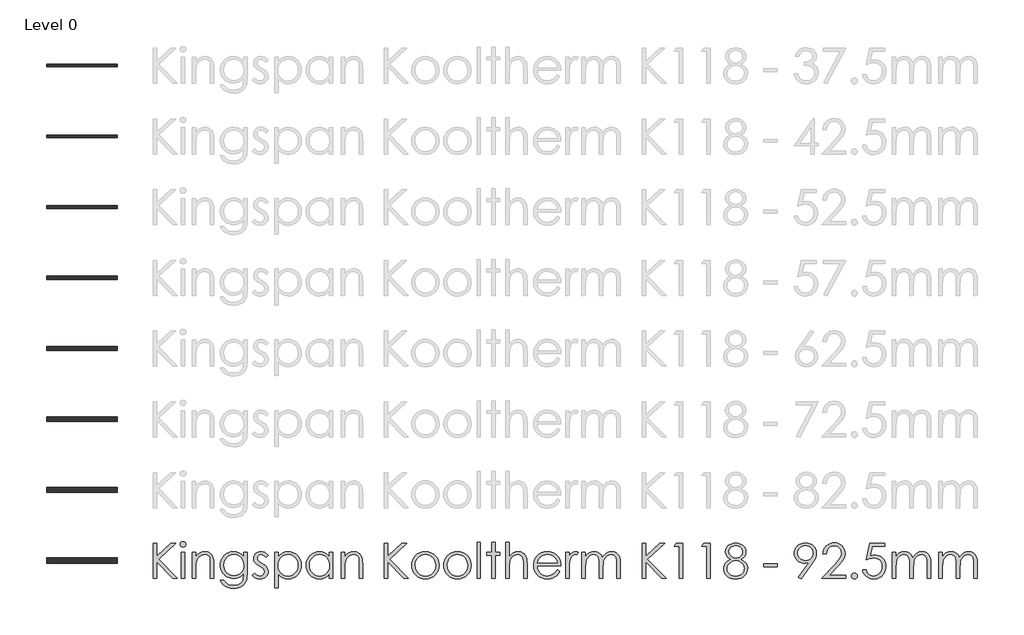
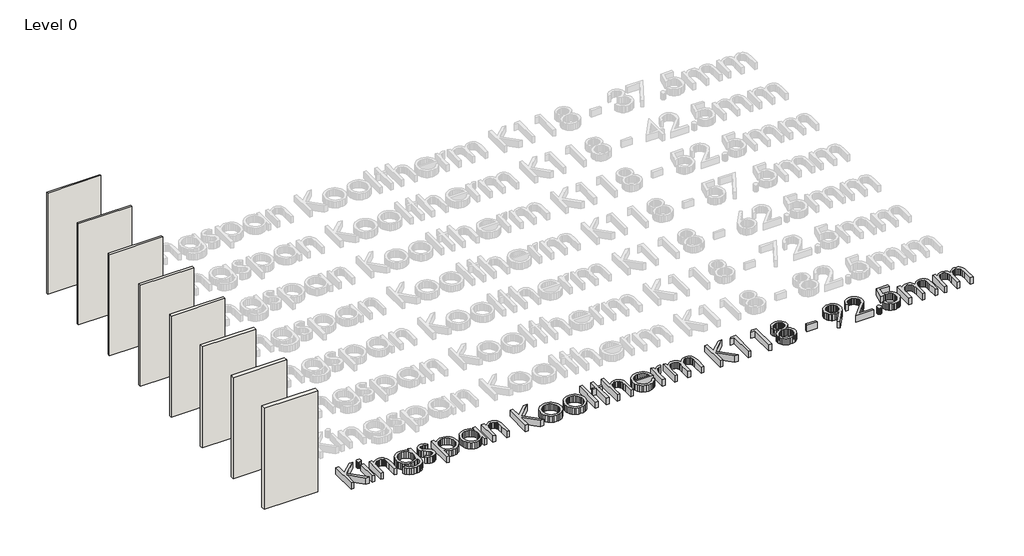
# One storey, part 1 of 8: 8 walls, 1 proxy.
"""IFC4 building model written with IfcOpenShell, lengths in millimetres."""

from ifc_helpers import new_model, si_unit, origin, origin_with_axes, place, context, project, spatial, polyline, outline, extrude, element, save

model = new_model("IFC4")

# Units and contexts
model_context = context("Model", 3, world=origin())
ifc_project = project(units=[si_unit("LENGTHUNIT", "METRE", prefix="MILLI")], contexts=[model_context])

# Site, building, storey
site = spatial("IfcSite", under=ifc_project)
building = spatial("IfcBuilding", under=site)
storey = spatial("IfcBuildingStorey", under=building, Name="Level 0", Elevation=0.0)

# Proxy
placement = place(None, origin())
element("IfcBuildingElementProxy", 1, Name="600mm KI_CenturyGothic", ObjectType="600mm KI_CenturyGothic", at=placement, inside=storey, context=model_context, shape_type="SweptSolid", body=[
    extrude(outline(polyline([(-3852.2663848, -2499.1034017), (-3792.944575, -2499.1034017), (-3792.944575, -2718.316027), (-3555.1938841, -2499.1034017), (-3471.6181051, -2499.1034017), (-3760.9664119, -2766.0515459), (-3441.9572002, -3092.3214999), (-3520.8984627, -3092.3214999), (-3792.944575, -2814.0960325), (-3792.944575, -3092.3214999), (-3852.2663848, -3092.3214999), (-3852.2663848, -2499.1034017)])), origin_with_axes(), (0.0, 0.0, 1.0), 150.0),
    extrude(outline(polyline([(-3348.1854852, -2469.4424967), (-3329.145347, -2472.7252792), (-3313.1176445, -2482.5736265), (-3302.226531, -2497.0178693), (-3298.5961598, -2514.088338), (-3302.226531, -2530.9270809), (-3313.1176445, -2545.2940817), (-3329.145347, -2555.142429), (-3348.1854852, -2558.4252115), (-3366.9938975, -2555.142429), (-3382.9443581, -2545.2940817), (-3393.8354717, -2530.9270809), (-3397.4658428, -2514.088338), (-3393.8354717, -2497.0178693), (-3382.9443581, -2482.5736265), (-3366.9938975, -2472.7252792), (-3348.1854852, -2469.4424967)])), origin_with_axes(), (0.0, 0.0, 1.0), 150.0),
    extrude(outline(polyline([(-3377.6919062, -2647.4079262), (-3318.3700964, -2647.4079262), (-3318.3700964, -3092.3214999), (-3377.6919062, -3092.3214999), (-3377.6919062, -2647.4079262)])), origin_with_axes(), (0.0, 0.0, 1.0), 150.0),
    extrude(outline(polyline([(-3189.8395084, -2647.4079262), (-3130.5176986, -2647.4079262), (-3130.5176986, -2726.5036726), (-3096.9946967, -2686.9944204), (-3060.0730495, -2659.303185), (-3019.7141359, -2642.9665147), (-2975.879335, -2637.5209579), (-2953.4357238, -2639.0995901), (-2932.2955704, -2643.8354865), (-2912.4588747, -2651.7286472), (-2893.9256368, -2662.7790723), (-2877.212412, -2676.5039994), (-2862.835756, -2692.4206667), (-2841.0921499, -2730.8292213), (-2833.6238199, -2755.2087086), (-2828.2892984, -2785.5551357), (-2824.0216812, -2864.1488095), (-2824.0216812, -3092.3214999), (-2883.343491, -3092.3214999), (-2883.343491, -2879.1337458), (-2883.343491, -2776.092998), (-2884.7290183, -2755.2956057), (-2889.8125035, -2737.2403023), (-2898.2849788, -2721.9270877), (-2910.1464442, -2709.355962), (-2924.7403432, -2699.5558909), (-2941.4101193, -2692.5558401), (-2980.977303, -2686.9557994), (-3005.3471351, -2689.1137461), (-3028.4038541, -2695.5875862), (-3050.1474602, -2706.3773197), (-3070.5779533, -2721.4829466), (-3088.6622225, -2739.7651482), (-3103.3671568, -2760.084606), (-3114.6927562, -2782.44132), (-3122.6390208, -2806.8352901), (-3128.5480292, -2853.9142525), (-3130.5176986, -2928.4141035), (-3130.5176986, -3092.3214999), (-3189.8395084, -3092.3214999), (-3189.8395084, -2647.4079262)])), origin_with_axes(), (0.0, 0.0, 1.0), 150.0),
    extrude(outline(polyline([(-2319.7862977, -2647.4079262), (-2260.4644879, -2647.4079262), (-2260.4644879, -2998.395301), (-2264.5196897, -3078.6496765), (-2269.588692, -3109.4499001), (-2276.6852953, -3134.0321474), (-2289.9371156, -3162.6454585), (-2307.2924139, -3187.7732271), (-2328.7511904, -3209.4154531), (-2354.3134448, -3227.5721366), (-2383.3226209, -3241.9343098), (-2415.122162, -3252.1930049), (-2449.7120682, -3258.348222), (-2487.0923395, -3260.3999611), (-2541.0458345, -3256.3833802), (-2589.206184, -3244.3336376), (-2630.260275, -3225.5059147), (-2662.8949946, -3201.1553932), (-2690.2000204, -3167.8061856), (-2715.2650299, -3121.9824048), (-2655.94322, -3121.9824048), (-2642.4355358, -3143.151524), (-2627.0933555, -3161.3951046), (-2609.9166791, -3176.7131468), (-2590.9055067, -3189.1056506), (-2569.7894914, -3198.6691682), (-2546.2982864, -3205.5002523), (-2492.1903075, -3210.9651195), (-2438.5071593, -3205.6354257), (-2415.083541, -3198.9733084), (-2393.93856, -3189.6463441), (-2359.6624492, -3165.6047903), (-2336.8567664, -3136.1176798), (-2329.3884364, -3117.4782342), (-2324.0539149, -3093.7697863), (-2319.7862977, -3031.1458835), (-2319.7862977, -3008.4367532), (-2354.757586, -3044.2190818), (-2396.6420279, -3070.6165148), (-2443.392712, -3086.8952536), (-2492.9627269, -3092.3214999), (-2522.4063889, -3090.4242447), (-2550.9521133, -3084.7324793), (-2578.5999001, -3075.2462036), (-2605.3497494, -3061.9654175), (-2630.1540674, -3045.4742634), (-2651.9652601, -3026.3568832), (-2670.7833277, -3004.6132772), (-2686.6082702, -2980.2434451), (-2699.1456025, -2953.9280817), (-2708.1008399, -2926.3478816), (-2713.4739824, -2897.5028447), (-2715.2650299, -2867.392971), (-2713.3967404, -2837.1044753), (-2707.7918722, -2807.8780563), (-2698.4504251, -2779.713714), (-2685.3723991, -2752.6114483), (-2668.9971079, -2727.4257483), (-2649.7638648, -2705.0111029), (-2627.67267, -2685.367512), (-2602.7235235, -2668.4949758), (-2575.9833294, -2654.943843), (-2548.5189922, -2645.2644624), (-2520.3305117, -2639.456834), (-2491.4178881, -2637.5209579), (-2444.5320306, -2642.4644421), (-2400.8903346, -2657.2948945), (-2359.6045177, -2683.8661218), (-2319.7862977, -2724.0319306), (-2319.7862977, -2647.4079262)]), holes=[polyline([(-2484.1571458, -2686.9557994), (-2529.0154023, -2692.9806707), (-2570.5908765, -2711.0552847), (-2606.2187212, -2739.7699758), (-2633.2340897, -2777.7150788), (-2650.2659375, -2821.9940208), (-2655.94322, -2869.7102292), (-2653.0080263, -2905.6229036), (-2644.2024452, -2938.2817613), (-2629.5264766, -2967.6868023), (-2608.9801206, -2993.8380266), (-2583.7606272, -3015.296803), (-2555.0652466, -3030.6245004), (-2522.8939786, -3039.8211189), (-2487.2468234, -3042.8866584), (-2451.3244937, -3039.845257), (-2419.1001219, -3030.7210528), (-2390.573708, -3015.5140459), (-2365.7452519, -2994.2242363), (-2345.6382095, -2967.9812872), (-2331.2760363, -2937.9148621), (-2322.6587323, -2904.024961), (-2319.7862977, -2866.3115838), (-2325.0773706, -2817.6105407), (-2340.9505892, -2774.3936754), (-2366.4983608, -2738.1672056), (-2400.8130926, -2710.4373492), (-2440.9982119, -2692.8261869), (-2484.1571458, -2686.9557994)])]), origin_with_axes(), (0.0, 0.0, 1.0), 150.0),
    extrude(outline(polyline([(-1904.5336289, -2698.6965743), (-1940.9918246, -2736.390641), (-1962.9575012, -2714.7628978), (-1984.6721416, -2699.3145098), (-2006.1357456, -2690.045477), (-2027.3483133, -2686.9557994), (-2052.181597, -2691.6289368), (-2073.2300256, -2705.6483489), (-2087.5970264, -2725.8857371), (-2092.3860267, -2749.212803), (-2088.4466878, -2770.7633042), (-2076.628671, -2791.2324183), (-2052.0657341, -2813.400855), (-2010.2006027, -2839.122421), (-1958.3326401, -2871.9888664), (-1939.8428507, -2887.8138088), (-1926.315856, -2903.2332311), (-1909.9791857, -2935.9065716), (-1904.5336289, -2972.4420092), (-1906.9474396, -2998.5884059), (-1914.1888714, -3022.6492701), (-1926.2579245, -3044.624602), (-1943.1545989, -3064.5144015), (-1963.6719892, -3081.0055557), (-1986.6031901, -3092.7849515), (-2011.9482016, -3099.852589), (-2039.7070237, -3102.2084682), (-2077.4397114, -3098.3270607), (-2113.3958344, -3086.6828383), (-2145.4512394, -3068.2027042), (-2171.4817731, -3043.8135617), (-2135.7959969, -3003.3387852), (-2114.0041146, -3024.9665283), (-2091.5749863, -3040.4149163), (-2068.5086121, -3049.6839491), (-2044.8049918, -3052.7736267), (-2013.637869, -3047.1349651), (-1987.4914724, -3030.2189802), (-1969.7644472, -3005.6560434), (-1963.8554388, -2977.0765256), (-1967.7561567, -2953.2860081), (-1979.4583106, -2932.2762005), (-2005.0253927, -2910.5712154), (-2050.2119275, -2883.7682622), (-2099.762632, -2853.1032121), (-2117.441381, -2837.9444814), (-2130.3890611, -2822.9016136), (-2146.3781427, -2790.7689666), (-2151.7078365, -2754.310771), (-2149.5305794, -2730.2643896), (-2142.9988078, -2708.3325063), (-2132.1125219, -2688.5151211), (-2116.8717217, -2670.812234), (-2098.309518, -2656.2473007), (-2077.4590218, -2645.8437769), (-2054.3202332, -2639.6016627), (-2028.8931521, -2637.5209579), (-1997.9481, -2641.3444339), (-1966.9064954, -2652.814862), (-1935.7683384, -2671.9322421), (-1904.5336289, -2698.6965743)])), origin_with_axes(), (0.0, 0.0, 1.0), 150.0),
    extrude(outline(polyline([(-1795.7769776, -2647.4079262), (-1736.4551678, -2647.4079262), (-1736.4551678, -2728.5119631), (-1700.9238754, -2688.2689124), (-1660.4490989, -2659.9211205), (-1614.9922173, -2643.1209986), (-1564.5146096, -2637.5209579), (-1520.0618732, -2641.7596094), (-1478.9305402, -2654.4755637), (-1441.1206107, -2675.668821), (-1406.6320845, -2705.3393811), (-1377.9077381, -2740.9768811), (-1357.3903478, -2780.070958), (-1345.0799137, -2822.6216116), (-1340.9764356, -2868.628842), (-1345.0412927, -2915.5291824), (-1357.235864, -2958.7508754), (-1377.5601494, -2998.293921), (-1406.014149, -3034.1583192), (-1440.2130179, -3063.9302594), (-1477.7719111, -3085.1959309), (-1518.6908288, -3097.9553339), (-1562.9697708, -3102.2084682), (-1612.6170277, -3096.743601), (-1658.0545988, -3080.3489992), (-1699.3211052, -3053.1019049), (-1736.4551678, -3015.07956), (-1736.4551678, -3250.5129928), (-1795.7769776, -3250.5129928), (-1795.7769776, -2647.4079262)]), holes=[polyline([(-1568.5311905, -2686.9557994), (-1602.5852307, -2690.2530647), (-1633.8392507, -2700.1448607), (-1662.2932503, -2716.6311872), (-1687.9472295, -2739.7120444), (-1709.1694525, -2767.6977647), (-1724.3281832, -2798.8986808), (-1733.4234216, -2833.3147926), (-1736.4551678, -2870.9461002), (-1731.048232, -2919.8016272), (-1714.8274246, -2963.4819442), (-1688.5265441, -3000.3263495), (-1652.8793888, -3028.6741414), (-1611.4390881, -3046.7487554), (-1567.7587711, -3052.7736267), (-1525.0632888, -3046.7101344), (-1485.0326535, -3028.5196576), (-1450.2544701, -2999.4187567), (-1423.3163435, -2960.6239924), (-1406.05277, -2915.9588407), (-1400.2982454, -2869.2467775), (-1405.9948385, -2822.3029886), (-1423.0846177, -2777.8695627), (-1449.8103289, -2739.5189395), (-1484.414718, -2710.8235589), (-1524.7157001, -2692.9227393), (-1568.5311905, -2686.9557994)])]), origin_with_axes(), (0.0, 0.0, 1.0), 150.0),
    extrude(outline(polyline([(-807.0801472, -2647.4079262), (-807.0801472, -3092.3214999), (-866.401957, -3092.3214999), (-866.401957, -3016.4699149), (-903.4780882, -3054.3184655), (-944.8797679, -3081.0441767), (-990.4525125, -3096.9173953), (-1040.0418379, -3102.2084682), (-1084.3159523, -3097.9553339), (-1125.2203871, -3085.1959309), (-1162.7551422, -3063.9302594), (-1196.9202178, -3034.1583192), (-1225.340424, -2998.293921), (-1245.6405713, -2958.7508754), (-1257.8206597, -2915.5291824), (-1261.8806892, -2868.628842), (-1257.7820388, -2822.6216116), (-1245.4860875, -2780.070958), (-1224.9928353, -2740.9768811), (-1196.3022822, -2705.3393811), (-1161.8475494, -2675.668821), (-1124.061758, -2654.4755637), (-1082.9449079, -2641.7596094), (-1038.4969991, -2637.5209579), (-987.7490446, -2643.1209986), (-942.0990581, -2659.9211205), (-921.2051134, -2672.6081091), (-901.6242816, -2688.2689124), (-866.401957, -2728.5119631), (-866.401957, -2647.4079262), (-807.0801472, -2647.4079262)]), holes=[polyline([(-1034.3259343, -2686.9557994), (-1078.1414247, -2692.9227393), (-1118.4424068, -2710.8235589), (-1153.0467959, -2739.5189395), (-1179.7725071, -2777.8695627), (-1196.8622863, -2822.3029886), (-1202.5588794, -2869.2467775), (-1196.8043548, -2915.9588407), (-1179.5407813, -2960.6239924), (-1152.6026548, -2999.4187567), (-1117.8244713, -3028.5196576), (-1077.6779731, -3046.7101344), (-1034.6349021, -3052.7736267), (-991.0125165, -3046.7487554), (-949.7460102, -3028.6741414), (-914.2726493, -3000.3263495), (-888.0297002, -2963.4819442), (-871.8088928, -2919.8016272), (-866.401957, -2870.9461002), (-869.4337032, -2833.3147926), (-878.5289416, -2798.8986808), (-893.6876723, -2767.6977647), (-914.9098953, -2739.7120444), (-940.5638746, -2716.6311872), (-969.0178742, -2700.1448607), (-1000.2718941, -2690.2530647), (-1034.3259343, -2686.9557994)])]), origin_with_axes(), (0.0, 0.0, 1.0), 150.0),
    extrude(outline(polyline([(-668.662591, -2647.4079262), (-609.3407811, -2647.4079262), (-609.3407811, -2726.5036726), (-575.8177792, -2686.9944204), (-538.896132, -2659.303185), (-498.5372184, -2642.9665147), (-454.7024175, -2637.5209579), (-432.2588064, -2639.0995901), (-411.1186529, -2643.8354865), (-391.2819572, -2651.7286472), (-372.7487193, -2662.7790723), (-356.0354946, -2676.5039994), (-341.6588385, -2692.4206667), (-319.9152324, -2730.8292213), (-312.4469024, -2755.2087086), (-307.1123809, -2785.5551357), (-302.8447637, -2864.1488095), (-302.8447637, -3092.3214999), (-362.1665735, -3092.3214999), (-362.1665735, -2879.1337458), (-362.1665735, -2776.092998), (-363.5521008, -2755.2956057), (-368.635586, -2737.2403023), (-377.1080613, -2721.9270877), (-388.9695267, -2709.355962), (-403.5634257, -2699.5558909), (-420.2332018, -2692.5558401), (-459.8003855, -2686.9557994), (-484.1702176, -2689.1137461), (-507.2269366, -2695.5875862), (-528.9705427, -2706.3773197), (-549.4010358, -2721.4829466), (-567.485305, -2739.7651482), (-582.1902393, -2760.084606), (-593.5158387, -2782.44132), (-601.4621033, -2806.8352901), (-607.3711117, -2853.9142525), (-609.3407811, -2928.4141035), (-609.3407811, -3092.3214999), (-668.662591, -3092.3214999), (-668.662591, -2647.4079262)])), origin_with_axes(), (0.0, 0.0, 1.0), 150.0),
    extrude(outline(polyline([(62.9730635, -2499.1034017), (122.2948734, -2499.1034017), (122.2948734, -2718.316027), (360.0455643, -2499.1034017), (443.6213432, -2499.1034017), (154.2730365, -2766.0515459), (473.2822481, -3092.3214999), (394.3409856, -3092.3214999), (122.2948734, -2814.0960325), (122.2948734, -3092.3214999), (62.9730635, -3092.3214999), (62.9730635, -2499.1034017)])), origin_with_axes(), (0.0, 0.0, 1.0), 150.0),
    extrude(outline(polyline([(760.1588128, -2637.5209579), (809.4681362, -2642.1458191), (854.3553585, -2656.0204025), (894.8204798, -2679.1447083), (930.8635, -2711.5187363), (957.7630055, -2746.7507161), (976.9769381, -2785.091684), (988.5052976, -2826.54164), (992.3480841, -2871.1005841), (988.283227, -2915.9153921), (976.0886558, -2957.8239721), (955.7643703, -2996.8263241), (927.3103707, -3032.9224481), (892.4742558, -3063.2350819), (853.0036246, -3084.8869632), (808.8984769, -3097.8780919), (760.1588128, -3102.2084682), (711.2839754, -3097.8780919), (667.0822753, -3084.8869632), (627.5537126, -3063.2350819), (592.6982872, -3032.9224481), (564.2442876, -2996.8263241), (543.9200022, -2957.8239721), (531.7254309, -2915.9153921), (527.6605738, -2871.1005841), (531.5033603, -2826.7347449), (543.0317198, -2785.4006518), (562.2456524, -2747.0983049), (589.145158, -2711.8277041), (625.2074886, -2679.3185026), (665.7305413, -2656.0976445), (710.7143161, -2642.1651295), (760.1588128, -2637.5209579)]), holes=[polyline([(760.004329, -2686.9557994), (725.7282181, -2690.3303067), (693.9624704, -2700.4538284), (664.7070856, -2717.3263647), (637.962064, -2740.9479154), (615.6584538, -2769.3584664), (599.7273037, -2800.5980035), (590.1686137, -2834.6665266), (586.9823836, -2871.5640357), (592.7948396, -2919.2995546), (610.2322075, -2963.6364281), (637.5758543, -3001.4270471), (673.1071466, -3029.5238028), (714.6439998, -3046.9611707), (760.004329, -3052.7736267), (805.3646581, -3046.9611707), (846.9015113, -3029.5238028), (882.4328037, -3001.4270471), (909.7764504, -2963.6364281), (927.2138183, -2919.2995546), (933.0262743, -2871.5640357), (929.8255614, -2834.6665266), (920.2234227, -2800.5980035), (904.2198583, -2769.3584664), (881.8148681, -2740.9479154), (854.9974321, -2717.3263647), (825.7565303, -2700.4538284), (794.0921625, -2690.3303067), (760.004329, -2686.9557994)])]), origin_with_axes(), (0.0, 0.0, 1.0), 150.0),
    extrude(outline(polyline([(1303.9420695, -2637.5209579), (1353.2513929, -2642.1458191), (1398.1386152, -2656.0204025), (1438.6037365, -2679.1447083), (1474.6467567, -2711.5187363), (1501.5462622, -2746.7507161), (1520.7601948, -2785.091684), (1532.2885543, -2826.54164), (1536.1313408, -2871.1005841), (1532.0664837, -2915.9153921), (1519.8719125, -2957.8239721), (1499.547627, -2996.8263241), (1471.0936274, -3032.9224481), (1436.2575126, -3063.2350819), (1396.7868813, -3084.8869632), (1352.6817336, -3097.8780919), (1303.9420695, -3102.2084682), (1255.0672321, -3097.8780919), (1210.865532, -3084.8869632), (1171.3369693, -3063.2350819), (1136.4815439, -3032.9224481), (1108.0275443, -2996.8263241), (1087.7032589, -2957.8239721), (1075.5086876, -2915.9153921), (1071.4438305, -2871.1005841), (1075.286617, -2826.7347449), (1086.8149766, -2785.4006518), (1106.0289091, -2747.0983049), (1132.9284147, -2711.8277041), (1168.9907453, -2679.3185026), (1209.5137981, -2656.0976445), (1254.4975728, -2642.1651295), (1303.9420695, -2637.5209579)]), holes=[polyline([(1303.7875857, -2686.9557994), (1269.5114748, -2690.3303067), (1237.7457271, -2700.4538284), (1208.4903423, -2717.3263647), (1181.7453207, -2740.9479154), (1159.4417105, -2769.3584664), (1143.5105604, -2800.5980035), (1133.9518704, -2834.6665266), (1130.7656404, -2871.5640357), (1136.5780963, -2919.2995546), (1154.0154643, -2963.6364281), (1181.359111, -3001.4270471), (1216.8904033, -3029.5238028), (1258.4272565, -3046.9611707), (1303.7875857, -3052.7736267), (1349.1479149, -3046.9611707), (1390.684768, -3029.5238028), (1426.2160604, -3001.4270471), (1453.5597071, -2963.6364281), (1470.997075, -2919.2995546), (1476.809531, -2871.5640357), (1473.6088181, -2834.6665266), (1464.0066795, -2800.5980035), (1448.003115, -2769.3584664), (1425.5981249, -2740.9479154), (1398.7806889, -2717.3263647), (1369.539787, -2700.4538284), (1337.8754193, -2690.3303067), (1303.7875857, -2686.9557994)])]), origin_with_axes(), (0.0, 0.0, 1.0), 150.0),
    extrude(outline(polyline([(1635.0010238, -2479.3294651), (1694.3228337, -2479.3294651), (1694.3228337, -3092.3214999), (1635.0010238, -3092.3214999), (1635.0010238, -2479.3294651)])), origin_with_axes(), (0.0, 0.0, 1.0), 150.0),
    extrude(outline(polyline([(1882.1752314, -2479.3294651), (1941.4970413, -2479.3294651), (1941.4970413, -2647.4079262), (2020.5927877, -2647.4079262), (2020.5927877, -2696.8427677), (1941.4970413, -2696.8427677), (1941.4970413, -3092.3214999), (1882.1752314, -3092.3214999), (1882.1752314, -2696.8427677), (1803.079485, -2696.8427677), (1803.079485, -2647.4079262), (1882.1752314, -2647.4079262), (1882.1752314, -2479.3294651)])), origin_with_axes(), (0.0, 0.0, 1.0), 150.0),
    extrude(outline(polyline([(2119.4624707, -2479.3294651), (2178.7842806, -2479.3294651), (2178.7842806, -2728.0485114), (2212.5583188, -2688.3461544), (2249.6151394, -2660.0756044), (2289.9161216, -2643.1596195), (2333.4226442, -2637.5209579), (2355.8662553, -2639.0995901), (2377.0064088, -2643.8354865), (2396.8431044, -2651.7286472), (2415.3763424, -2662.7790723), (2432.0895671, -2676.4895166), (2446.4662232, -2692.3627352), (2468.2098293, -2730.5974955), (2475.6781593, -2754.9045684), (2481.0126808, -2785.2654784), (2485.280298, -2864.1488095), (2485.280298, -3092.3214999), (2425.9584882, -3092.3214999), (2425.9584882, -2879.1337458), (2424.5681332, -2814.752589), (2420.3970685, -2776.092998), (2406.879729, -2737.2403023), (2397.1665551, -2721.9270877), (2385.4837117, -2709.355962), (2371.840854, -2699.5558909), (2356.2476374, -2692.5558401), (2319.2101273, -2686.9557994), (2296.3416854, -2689.1137461), (2274.6994594, -2695.5875862), (2254.2834492, -2706.3773197), (2235.0936547, -2721.4829466), (2218.1052556, -2739.7651482), (2204.2934312, -2760.084606), (2193.6581816, -2782.44132), (2186.1995068, -2806.8352901), (2180.6380871, -2853.6825267), (2178.7842806, -2928.4141035), (2178.7842806, -3092.3214999), (2119.4624707, -3092.3214999), (2119.4624707, -2479.3294651)])), origin_with_axes(), (0.0, 0.0, 1.0), 150.0),
    extrude(outline(polyline([(2991.0605203, -2944.0169753), (3038.950523, -2969.1978477), (3013.3255094, -3011.0822896), (2984.0315038, -3044.0452875), (2950.952643, -3069.1296074), (2913.9730643, -3087.3780157), (2872.4941426, -3098.5008551), (2825.9172528, -3102.2084682), (2774.4258447, -3097.7767119), (2728.8627554, -3084.481443), (2689.227985, -3062.3226615), (2655.5215335, -3031.3003674), (2628.6220279, -2994.6973431), (2609.4080954, -2955.7963712), (2597.8797358, -2914.5974515), (2594.0369493, -2871.1005841), (2597.3197318, -2830.2202874), (2607.1680791, -2791.618628), (2623.5819913, -2755.2956057), (2646.5614684, -2721.2512207), (2682.7493173, -2684.6192308), (2724.5758277, -2658.4535236), (2772.0409998, -2642.7540993), (2825.1448334, -2637.5209579), (2879.7935059, -2642.8892727), (2928.6490329, -2658.9942172), (2971.7114143, -2685.8357913), (3008.9806503, -2723.4139951), (3030.4539096, -2755.585263), (3045.9022976, -2791.541386), (3055.3258143, -2831.2823641), (3058.7244596, -2874.8081972), (2653.3587591, -2874.8081972), (2657.095338, -2912.0629503), (2666.6057518, -2945.8128504), (2681.8900007, -2976.0578975), (2702.9480845, -3002.7980916), (2728.3124066, -3024.6623882), (2756.5153699, -3040.2797429), (2787.5569744, -3049.6501557), (2821.4372203, -3052.7736267), (2854.9602222, -3049.761191), (2887.5563208, -3040.7238841), (2917.2944677, -3026.6851615), (2942.2436143, -3008.668479), (2965.725164, -2982.5027719), (2991.0605203, -2944.0169753)]), holes=[polyline([(2999.4026498, -2825.3733557), (2984.9777175, -2782.8516678), (2965.1844704, -2749.8307385), (2939.0766947, -2724.3022774), (2905.7081767, -2704.257994), (2867.7630738, -2691.2813481), (2827.9255433, -2686.9557994), (2795.503239, -2689.6689226), (2765.4368139, -2697.808292), (2737.726268, -2711.3739077), (2712.3716012, -2730.3657696), (2695.8321708, -2748.179692), (2681.4362043, -2769.9522638), (2669.1837016, -2795.683485), (2659.0746627, -2825.3733557), (2999.4026498, -2825.3733557)])]), origin_with_axes(), (0.0, 0.0, 1.0), 150.0),
    extrude(outline(polyline([(3137.820206, -2647.4079262), (3197.1420159, -2647.4079262), (3197.1420159, -2711.8277041), (3222.6897875, -2678.7874643), (3249.589293, -2655.6728138), (3277.7632906, -2642.0589219), (3307.1345382, -2637.5209579), (3330.4616041, -2641.305813), (3355.3335087, -2652.6603781), (3325.8270877, -2694.6799934), (3297.2475699, -2686.9557994), (3270.8308265, -2692.9034288), (3245.3409863, -2710.7463169), (3223.2884125, -2741.1023993), (3207.183468, -2784.5896114), (3199.6523789, -2842.7141712), (3197.1420159, -2940.1548783), (3197.1420159, -3092.3214999), (3137.820206, -3092.3214999), (3137.820206, -2647.4079262)])), origin_with_axes(), (0.0, 0.0, 1.0), 150.0),
    extrude(outline(polyline([(3414.6553185, -2647.4079262), (3473.9771284, -2647.4079262), (3473.9771284, -2723.5684789), (3503.5607913, -2687.0716623), (3533.9168737, -2661.9294109), (3577.3268439, -2643.6230712), (3622.8995884, -2637.5209579), (3653.7384329, -2640.668567), (3682.9165757, -2650.1113941), (3708.6767627, -2664.7873627), (3729.2617397, -2683.634396), (3746.0425511, -2709.0663047), (3760.3902414, -2743.4968994), (3775.16759, -2719.0981017), (3791.6925376, -2697.808292), (3809.965084, -2679.6274704), (3829.9852293, -2664.5556369), (3851.2798666, -2652.7279648), (3873.375889, -2644.2796277), (3896.2732965, -2639.2106253), (3919.9720892, -2637.5209579), (3962.3006723, -2643.3334139), (3981.4952943, -2650.5989839), (3999.3768034, -2660.7707818), (4015.4914031, -2673.53984), (4029.385297, -2688.5971907), (4050.5109676, -2725.5767694), (4057.8103309, -2748.9521114), (4063.0241619, -2777.5219739), (4067.1952266, -2850.2452603), (4067.1952266, -3092.3214999), (4007.8734168, -3092.3214999), (4007.8734168, -2846.6921311), (4005.4209852, -2785.5744462), (3998.0636904, -2747.1272706), (3984.7587663, -2722.6608861), (3964.4634466, -2703.4855746), (3938.3942919, -2691.0882432), (3907.7678627, -2686.9557994), (3888.1194443, -2688.5054659), (3869.3399976, -2693.1544651), (3834.3880198, -2711.7504621), (3805.6540182, -2740.6968791), (3785.8800816, -2777.9468046), (3779.1889985, -2802.1042213), (3774.4096535, -2833.1747916), (3770.5861775, -2916.0553931), (3770.5861775, -3092.3214999), (3711.2643677, -3092.3214999), (3711.2643677, -2861.9860352), (3708.850557, -2793.530366), (3701.6091252, -2751.2983353), (3688.3621325, -2725.0553863), (3667.9316394, -2704.5669617), (3641.6114484, -2691.35859), (3610.6953619, -2686.9557994), (3573.7544042, -2692.9999812), (3539.2465676, -2711.1325266), (3510.2808401, -2739.499629), (3489.9662099, -2776.2474819), (3477.9743988, -2828.0768236), (3473.9771284, -2901.6883923), (3473.9771284, -3092.3214999), (3414.6553185, -3092.3214999), (3414.6553185, -2647.4079262)])), origin_with_axes(), (0.0, 0.0, 1.0), 150.0),
    extrude(outline(polyline([(4433.0130538, -2499.1034017), (4492.3348637, -2499.1034017), (4492.3348637, -2718.316027), (4730.0855546, -2499.1034017), (4813.6613335, -2499.1034017), (4524.3130268, -2766.0515459), (4843.3222385, -3092.3214999), (4764.3809759, -3092.3214999), (4492.3348637, -2814.0960325), (4492.3348637, -3092.3214999), (4433.0130538, -3092.3214999), (4433.0130538, -2499.1034017)])), origin_with_axes(), (0.0, 0.0, 1.0), 150.0),
    extrude(outline(polyline([(5010.6282802, -2499.1034017), (5125.1008351, -2499.1034017), (5125.1008351, -3092.3214999), (5065.7790253, -3092.3214999), (5065.7790253, -2548.5382432), (4976.7963106, -2548.5382432), (5010.6282802, -2499.1034017)])), origin_with_axes(), (0.0, 0.0, 1.0), 150.0),
    extrude(outline(polyline([(5475.3157905, -2499.1034017), (5589.7883454, -2499.1034017), (5589.7883454, -3092.3214999), (5530.4665356, -3092.3214999), (5530.4665356, -2548.5382432), (5441.4838208, -2548.5382432), (5475.3157905, -2499.1034017)])), origin_with_axes(), (0.0, 0.0, 1.0), 150.0),
    extrude(outline(polyline([(6107.7727942, -2768.2143202), (6159.8724826, -2799.6131687), (6179.6946955, -2816.8477766), (6195.365154, -2835.1058401), (6207.2604128, -2854.5225327), (6215.7570261, -2875.2330279), (6220.8549942, -2897.2373255), (6222.5543169, -2920.5354256), (6219.734986, -2953.2184214), (6211.2769936, -2983.9124373), (6197.1803396, -3012.6174732), (6177.445024, -3039.3335291), (6146.7510081, -3066.841315), (6110.1286734, -3086.4897334), (6067.5780197, -3098.2787845), (6019.0990472, -3102.2084682), (5972.4352603, -3098.756719), (5931.7770342, -3088.4014714), (5897.1243689, -3071.1427255), (5868.4772645, -3046.9804812), (5846.0384809, -3018.6664826), (5830.0107784, -2988.9524739), (5820.3941569, -2957.838455), (5817.1886164, -2925.3244259), (5818.9024219, -2901.5966675), (5824.0438386, -2879.0758144), (5832.6128663, -2857.7618666), (5844.609505, -2837.6548241), (5860.5068618, -2818.6871003), (5880.7780434, -2800.7911083), (5905.4230498, -2783.9668483), (5934.4418811, -2768.2143202), (5896.0719475, -2743.2651736), (5868.7089903, -2712.9090912), (5852.3143886, -2678.6522909), (5846.8495213, -2642.0009904), (5852.6426668, -2604.2876133), (5870.0221033, -2567.4625184), (5897.6360968, -2534.9436618), (5934.1329134, -2510.1489991), (5976.7318432, -2494.4495748), (6022.6521765, -2489.2164334), (6067.3945701, -2494.4881958), (6108.6224555, -2510.3034829), (6143.8254696, -2535.1753876), (6170.4932494, -2567.6170023), (6187.2933713, -2604.7510649), (6192.8934119, -2643.7003131), (6187.5830286, -2681.2398959), (6171.6518785, -2714.45393), (6145.0613407, -2743.4196575), (6107.7727942, -2768.2143202)]), holes=[polyline([(6022.9611442, -2795.7124508), (5993.0926516, -2798.2228138), (5965.7441773, -2805.753903), (5940.9157212, -2818.3057182), (5918.6072834, -2835.8782595), (5900.1899084, -2856.7818595), (5887.0346405, -2879.3268507), (5879.1414798, -2903.5132331), (5876.5104262, -2929.3410068), (5881.0097692, -2961.4543433), (5894.5077982, -2991.6752522), (5916.0776099, -3017.6092335), (5944.7923011, -3036.8617871), (5979.6670369, -3048.7956668), (6019.7169827, -3052.7736267), (6050.9372093, -3050.3549884), (6078.7877563, -3043.0990737), (6103.2686236, -3031.0058825), (6124.3798113, -3014.0754148), (6141.3778657, -2993.9104409), (6153.5193331, -2972.113731), (6160.8042135, -2948.6852851), (6163.232507, -2923.6251032), (6160.6642125, -2899.2938921), (6152.959329, -2876.353036), (6140.1178565, -2854.8025348), (6122.139795, -2834.6423885), (6100.5313623, -2817.6105407), (6076.7987763, -2805.4449352), (6050.9420369, -2798.1455719), (6022.9611442, -2795.7124508)]), polyline([(6019.7169827, -2538.6512749), (5996.2112949, -2540.5099091), (5974.8201052, -2546.0858116), (5955.5434136, -2555.3789825), (5938.3812201, -2568.3894217), (5924.2893937, -2583.9778107), (5914.2238034, -2601.0048308), (5908.1844492, -2619.4704821), (5906.1713311, -2639.3747645), (5908.3389331, -2659.2838745), (5914.8417389, -2678.2274602), (5925.6797486, -2696.2055217), (5940.8529621, -2713.218059), (5958.9130932, -2727.6816122), (5978.4118554, -2738.0127217), (5999.3492487, -2744.2113874), (6021.7252732, -2746.2776093), (6050.4399643, -2742.5313752), (6077.5711957, -2731.2926729), (6101.0334349, -2713.5463372), (6118.7411497, -2690.2772028), (6129.863989, -2664.2273586), (6133.5716021, -2638.1388934), (6131.7467613, -2619.9677271), (6126.2722388, -2602.5303592), (6117.1480347, -2585.8267897), (6104.3741488, -2569.8570186), (6088.134031, -2556.2045057), (6068.6111307, -2546.4527108), (6045.8054479, -2540.6016339), (6019.7169827, -2538.6512749)])]), origin_with_axes(), (0.0, 0.0, 1.0), 150.0),
    extrude(outline(polyline([(6499.3894294, -2845.1472923), (6726.7897004, -2845.1472923), (6726.7897004, -2894.5821338), (6499.3894294, -2894.5821338), (6499.3894294, -2845.1472923)])), origin_with_axes(), (0.0, 0.0, 1.0), 150.0),
    extrude(outline(polyline([(7132.1554008, -3102.2084682), (7081.1757205, -3074.5558537), (7254.5066336, -2829.3899366), (7192.24963, -2835.260324), (7156.3514385, -2832.1899569), (7123.2725777, -2822.9788556), (7093.0130478, -2807.62702), (7065.5728486, -2786.1344502), (7042.7961316, -2760.1521927), (7026.527048, -2731.3312939), (7016.7655979, -2699.6717538), (7013.5117812, -2665.1735724), (7015.0421371, -2641.1368462), (7019.6332049, -2618.3070254), (7027.2849846, -2596.6841098), (7037.9974761, -2576.2680996), (7051.5196432, -2557.450032), (7067.6004496, -2540.6209443), (7107.4379801, -2512.9297089), (7154.0148698, -2495.1447522), (7203.835921, -2489.2164334), (7252.5562746, -2495.0481998), (7297.3759102, -2512.5434992), (7317.6615747, -2525.3753165), (7335.6492914, -2540.5437024), (7351.3390604, -2558.048657), (7364.7308818, -2577.8901803), (7383.095153, -2621.2615296), (7389.2165767, -2667.3363467), (7385.3931007, -2704.180752), (7373.9226726, -2742.72448), (7352.6038972, -2786.1344502), (7319.2353792, -2837.5775822), (7132.1554008, -3102.2084682)]), holes=[polyline([(7204.7628243, -2785.8254825), (7231.0154286, -2783.5613281), (7254.7769804, -2776.768865), (7276.0474796, -2765.4480932), (7294.8269262, -2749.5990127), (7310.1691065, -2730.5540469), (7321.1278067, -2709.6456193), (7327.7030268, -2686.8737299), (7329.8947669, -2662.2383787), (7327.5437153, -2637.6030275), (7320.4905607, -2614.8311381), (7308.735303, -2593.9227105), (7292.2779422, -2574.8777447), (7272.4798675, -2559.0286641), (7250.702468, -2547.7078923), (7226.9457439, -2540.9154292), (7201.2096951, -2538.6512749), (7175.6088196, -2540.9154292), (7151.9486479, -2547.7078923), (7130.2291799, -2559.0286641), (7110.4504157, -2574.8777447), (7093.9930549, -2593.9227105), (7082.2377972, -2614.8311381), (7075.1846425, -2637.6030275), (7072.833591, -2662.2383787), (7075.2474016, -2686.8737299), (7082.4888335, -2709.6456193), (7094.5578866, -2730.5540469), (7111.4545609, -2749.5990127), (7131.7691911, -2765.4480932), (7154.0921117, -2776.768865), (7178.4233228, -2783.5613281), (7204.7628243, -2785.8254825)])]), origin_with_axes(), (0.0, 0.0, 1.0), 150.0),
    extrude(outline(polyline([(7557.2950379, -2677.0688311), (7497.9732281, -2677.0688311), (7502.4580882, -2637.8106152), (7513.5954104, -2602.2213914), (7531.3851947, -2570.3011597), (7555.827441, -2542.0499202), (7585.2228268, -2518.9352697), (7617.8720292, -2502.4248051), (7653.7750484, -2492.5185263), (7692.9318843, -2489.2164334), (7731.403198, -2492.5136987), (7766.0220699, -2502.4054946), (7796.7885001, -2518.8918211), (7823.7024885, -2541.9726783), (7845.5667851, -2569.533568), (7861.1841398, -2599.459992), (7870.5545527, -2631.7519505), (7873.6780236, -2666.4094434), (7867.5952208, -2715.2070389), (7849.3468125, -2760.8763359), (7813.5644839, -2812.763609), (7754.8799201, -2880.215133), (7602.095363, -3042.8866584), (7883.5649919, -3042.8866584), (7883.5649919, -3092.3214999), (7478.1992914, -3092.3214999), (7704.2092075, -2851.6356152), (7760.9434124, -2786.1151397), (7793.6553739, -2740.0210121), (7809.1810038, -2702.6552237), (7814.3562138, -2663.3197658), (7812.1065423, -2638.7133804), (7805.3575278, -2615.8739043), (7794.1091703, -2594.8013375), (7778.3614698, -2575.4956802), (7759.3502973, -2559.3762529), (7738.311524, -2547.8623762), (7715.2451497, -2540.9540502), (7690.1511745, -2538.6512749), (7663.8165006, -2540.9250845), (7639.8087401, -2547.7465133), (7618.1278932, -2559.1155613), (7598.7739596, -2575.0322286), (7582.5386694, -2595.0523738), (7570.2137523, -2618.731856), (7561.7992085, -2646.0706751), (7557.2950379, -2677.0688311)])), origin_with_axes(), (0.0, 0.0, 1.0), 150.0),
    extrude(outline(polyline([(8031.8695165, -3003.3387852), (8050.8903442, -3006.9305354), (8066.8601152, -3017.705786), (8077.6932973, -3033.6562466), (8081.304358, -3052.7736267), (8077.6932973, -3071.6979019), (8066.8601152, -3087.6869835), (8050.8903442, -3098.578097), (8031.8695165, -3102.2084682), (8012.8486888, -3098.578097), (7996.8789177, -3087.6869835), (7986.0457356, -3071.6979019), (7982.4346749, -3052.7736267), (7986.0457356, -3033.6562466), (7996.8789177, -3017.705786), (8012.8486888, -3006.9305354), (8031.8695165, -3003.3387852)])), origin_with_axes(), (0.0, 0.0, 1.0), 150.0),
    extrude(outline(polyline([(8545.9918683, -2499.1034017), (8545.9918683, -2548.5382432), (8338.6745016, -2548.5382432), (8304.2245965, -2709.5104459), (8341.8028002, -2700.0096873), (8375.441665, -2696.8427677), (8415.0281592, -2700.2655512), (8450.9842822, -2710.5339016), (8483.3100341, -2727.6478189), (8512.0054147, -2751.6073031), (8535.5255854, -2780.9157917), (8552.3257073, -2814.076722), (8562.4057805, -2851.090094), (8565.7658049, -2891.9559079), (8564.0423441, -2920.9216353), (8558.8719617, -2948.6514917), (8550.2546578, -2975.1454771), (8538.1904323, -3000.4035914), (8523.1861855, -3023.6051391), (8505.7488176, -3043.9294246), (8485.8783286, -3061.3764477), (8463.5747184, -3075.9462086), (8439.1421273, -3087.4359472), (8412.8846954, -3095.6429033), (8384.8024226, -3100.567077), (8354.895309, -3102.2084682), (8319.5619491, -3099.4518965), (8287.0961963, -3091.1821813), (8257.4980505, -3077.3993226), (8230.7675116, -3058.1033205), (8208.0149327, -3034.4334936), (8190.3506666, -3007.5291604), (8177.7747133, -2977.390321), (8170.2870727, -2944.0169753), (8229.6088825, -2944.0169753), (8239.1868831, -2976.7482474), (8253.7083678, -3002.6436077), (8273.5402358, -3022.9582379), (8299.0493865, -3038.9473194), (8328.0730454, -3049.3170499), (8358.4484383, -3052.7736267), (8387.7376163, -3049.8480882), (8414.8929858, -3041.0714728), (8439.9145467, -3026.4437804), (8462.802299, -3005.9650111), (8481.895541, -2981.0931065), (8495.533571, -2953.2860081), (8503.716389, -2922.543716), (8506.4439951, -2888.8662303), (8503.9819082, -2858.6791146), (8496.5956477, -2831.4561585), (8484.2852135, -2807.1973617), (8467.0506057, -2785.9027244), (8445.6932093, -2768.5667365), (8421.0144096, -2756.183888), (8393.0142063, -2748.754179), (8361.6925997, -2746.2776093), (8332.9875638, -2748.1314158), (8301.4052657, -2753.6928355), (8229.6088825, -2775.9385142), (8288.9306924, -2499.1034017), (8545.9918683, -2499.1034017)])), origin_with_axes(), (0.0, 0.0, 1.0), 150.0),
    extrude(outline(polyline([(8674.5224562, -2647.4079262), (8733.844266, -2647.4079262), (8733.844266, -2723.5684789), (8763.427929, -2687.0716623), (8793.7840114, -2661.9294109), (8837.1939816, -2643.6230712), (8882.7667261, -2637.5209579), (8913.6055706, -2640.668567), (8942.7837134, -2650.1113941), (8968.5439003, -2664.7873627), (8989.1288773, -2683.634396), (9005.9096888, -2709.0663047), (9020.2573791, -2743.4968994), (9035.0347277, -2719.0981017), (9051.5596752, -2697.808292), (9069.8322216, -2679.6274704), (9089.8523669, -2664.5556369), (9111.1470042, -2652.7279648), (9133.2430266, -2644.2796277), (9156.1404342, -2639.2106253), (9179.8392269, -2637.5209579), (9222.1678099, -2643.3334139), (9241.362432, -2650.5989839), (9259.2439411, -2660.7707818), (9275.3585408, -2673.53984), (9289.2524347, -2688.5971907), (9310.3781053, -2725.5767694), (9317.6774686, -2748.9521114), (9322.8912995, -2777.5219739), (9327.0623643, -2850.2452603), (9327.0623643, -3092.3214999), (9267.7405545, -3092.3214999), (9267.7405545, -2846.6921311), (9265.2881229, -2785.5744462), (9257.9308281, -2747.1272706), (9244.6259039, -2722.6608861), (9224.3305842, -2703.4855746), (9198.2614295, -2691.0882432), (9167.6350004, -2686.9557994), (9147.9865819, -2688.5054659), (9129.2071353, -2693.1544651), (9094.2551575, -2711.7504621), (9065.5211559, -2740.6968791), (9045.7472193, -2777.9468046), (9039.0561362, -2802.1042213), (9034.2767912, -2833.1747916), (9030.4533152, -2916.0553931), (9030.4533152, -3092.3214999), (8971.1315053, -3092.3214999), (8971.1315053, -2861.9860352), (8968.7176947, -2793.530366), (8961.4762628, -2751.2983353), (8948.2292702, -2725.0553863), (8927.7987771, -2704.5669617), (8901.4785861, -2691.35859), (8870.5624996, -2686.9557994), (8833.6215419, -2692.9999812), (8799.1137052, -2711.1325266), (8770.1479778, -2739.499629), (8749.8333476, -2776.2474819), (8737.8415364, -2828.0768236), (8733.844266, -2901.6883923), (8733.844266, -3092.3214999), (8674.5224562, -3092.3214999), (8674.5224562, -2647.4079262)])), origin_with_axes(), (0.0, 0.0, 1.0), 150.0),
    extrude(outline(polyline([(9465.4799205, -2647.4079262), (9524.8017304, -2647.4079262), (9524.8017304, -2723.5684789), (9554.3853933, -2687.0716623), (9584.7414757, -2661.9294109), (9628.1514459, -2643.6230712), (9673.7241904, -2637.5209579), (9704.5630349, -2640.668567), (9733.7411777, -2650.1113941), (9759.5013647, -2664.7873627), (9780.0863416, -2683.634396), (9796.8671531, -2709.0663047), (9811.2148434, -2743.4968994), (9825.992192, -2719.0981017), (9842.5171395, -2697.808292), (9860.7896859, -2679.6274704), (9880.8098312, -2664.5556369), (9902.1044685, -2652.7279648), (9924.200491, -2644.2796277), (9947.0978985, -2639.2106253), (9970.7966912, -2637.5209579), (10013.1252742, -2643.3334139), (10032.3198963, -2650.5989839), (10050.2014054, -2660.7707818), (10066.3160051, -2673.53984), (10080.209899, -2688.5971907), (10101.3355696, -2725.5767694), (10108.6349329, -2748.9521114), (10113.8487638, -2777.5219739), (10118.0198286, -2850.2452603), (10118.0198286, -3092.3214999), (10058.6980188, -3092.3214999), (10058.6980188, -2846.6921311), (10056.2455872, -2785.5744462), (10048.8882924, -2747.1272706), (10035.5833683, -2722.6608861), (10015.2880486, -2703.4855746), (9989.2188938, -2691.0882432), (9958.5924647, -2686.9557994), (9938.9440462, -2688.5054659), (9920.1645996, -2693.1544651), (9885.2126218, -2711.7504621), (9856.4786202, -2740.6968791), (9836.7046836, -2777.9468046), (9830.0136005, -2802.1042213), (9825.2342555, -2833.1747916), (9821.4107795, -2916.0553931), (9821.4107795, -3092.3214999), (9762.0889696, -3092.3214999), (9762.0889696, -2861.9860352), (9759.675159, -2793.530366), (9752.4337272, -2751.2983353), (9739.1867345, -2725.0553863), (9718.7562414, -2704.5669617), (9692.4360504, -2691.35859), (9661.5199639, -2686.9557994), (9624.5790062, -2692.9999812), (9590.0711695, -2711.1325266), (9561.1054421, -2739.499629), (9540.7908119, -2776.2474819), (9528.7990007, -2828.0768236), (9524.8017304, -2901.6883923), (9524.8017304, -3092.3214999), (9465.4799205, -3092.3214999), (9465.4799205, -2647.4079262)])), origin_with_axes(), (0.0, 0.0, 1.0), 150.0),
])

# Walls
element("IfcWall", 2, ObjectType="KingspanInsulation_Insulation_Kooltherm-K118-Insulated-Plasterboard-37.5", at=placement, inside=storey, context=model_context, shape_type="SweptSolid", body=[
    extrude(outline(polyline([(-5661.4751629, 5626.4285001), (-4461.4751629, 5626.4285001), (-4461.4751629, 5588.9285001), (-5661.4751629, 5588.9285001), (-5661.4751629, 5626.4285001)])), origin_with_axes(), (0.0, 0.0, 1.0), 2400.0),
])
element("IfcWall", 3, ObjectType="KingspanInsulation_Insulation_Kooltherm-K118-Insulated-Plasterboard-42.5", at=placement, inside=storey, context=model_context, shape_type="SweptSolid", body=[
    extrude(outline(polyline([(-5661.4751629, 4428.9285001), (-4461.4751629, 4428.9285001), (-4461.4751629, 4386.4285001), (-5661.4751629, 4386.4285001), (-5661.4751629, 4428.9285001)])), origin_with_axes(), (0.0, 0.0, 1.0), 2400.0),
])
element("IfcWall", 4, ObjectType="KingspanInsulation_Insulation_Kooltherm-K118-Insulated-Plasterboard-52.5", at=placement, inside=storey, context=model_context, shape_type="SweptSolid", body=[
    extrude(outline(polyline([(-5661.4751629, 3233.9285001), (-4461.4751629, 3233.9285001), (-4461.4751629, 3181.4285001), (-5661.4751629, 3181.4285001), (-5661.4751629, 3233.9285001)])), origin_with_axes(), (0.0, 0.0, 1.0), 2400.0),
])
element("IfcWall", 5, ObjectType="KingspanInsulation_Insulation_Kooltherm-K118-Insulated-Plasterboard-57.5", at=placement, inside=storey, context=model_context, shape_type="SweptSolid", body=[
    extrude(outline(polyline([(-5661.4751629, 2036.4285001), (-4461.4751629, 2036.4285001), (-4461.4751629, 1978.9285001), (-5661.4751629, 1978.9285001), (-5661.4751629, 2036.4285001)])), origin_with_axes(), (0.0, 0.0, 1.0), 2400.0),
])
element("IfcWall", 6, ObjectType="KingspanInsulation_Insulation_Kooltherm-K118-Insulated-Plasterboard-62.5", at=placement, inside=storey, context=model_context, shape_type="SweptSolid", body=[
    extrude(outline(polyline([(-5661.4751629, 838.9285001), (-4461.4751629, 838.9285001), (-4461.4751629, 776.4285001), (-5661.4751629, 776.4285001), (-5661.4751629, 838.9285001)])), origin_with_axes(), (0.0, 0.0, 1.0), 2400.0),
])
element("IfcWall", 7, ObjectType="KingspanInsulation_Insulation_Kooltherm-K118-Insulated-Plasterboard-72.5", at=placement, inside=storey, context=model_context, shape_type="SweptSolid", body=[
    extrude(outline(polyline([(-5661.4751629, -356.0714999), (-4461.4751629, -356.0714999), (-4461.4751629, -428.5714999), (-5661.4751629, -428.5714999), (-5661.4751629, -356.0714999)])), origin_with_axes(), (0.0, 0.0, 1.0), 2400.0),
])
element("IfcWall", 8, ObjectType="KingspanInsulation_Insulation_Kooltherm-K118-Insulated-Plasterboard-82.5", at=placement, inside=storey, context=model_context, shape_type="SweptSolid", body=[
    extrude(outline(polyline([(-5661.4751629, -1551.0714999), (-4461.4751629, -1551.0714999), (-4461.4751629, -1633.5714999), (-5661.4751629, -1633.5714999), (-5661.4751629, -1551.0714999)])), origin_with_axes(), (0.0, 0.0, 1.0), 2400.0),
])
element("IfcWall", 9, ObjectType="KingspanInsulation_Insulation_Kooltherm-K118-Insulated-Plasterboard-92.5", at=placement, inside=storey, context=model_context, shape_type="SweptSolid", body=[
    extrude(outline(polyline([(-5661.4751629, -2746.0714999), (-4461.4751629, -2746.0714999), (-4461.4751629, -2838.5714999), (-5661.4751629, -2838.5714999), (-5661.4751629, -2746.0714999)])), origin_with_axes(), (0.0, 0.0, 1.0), 2400.0),
])

save(model, "model.ifc")
